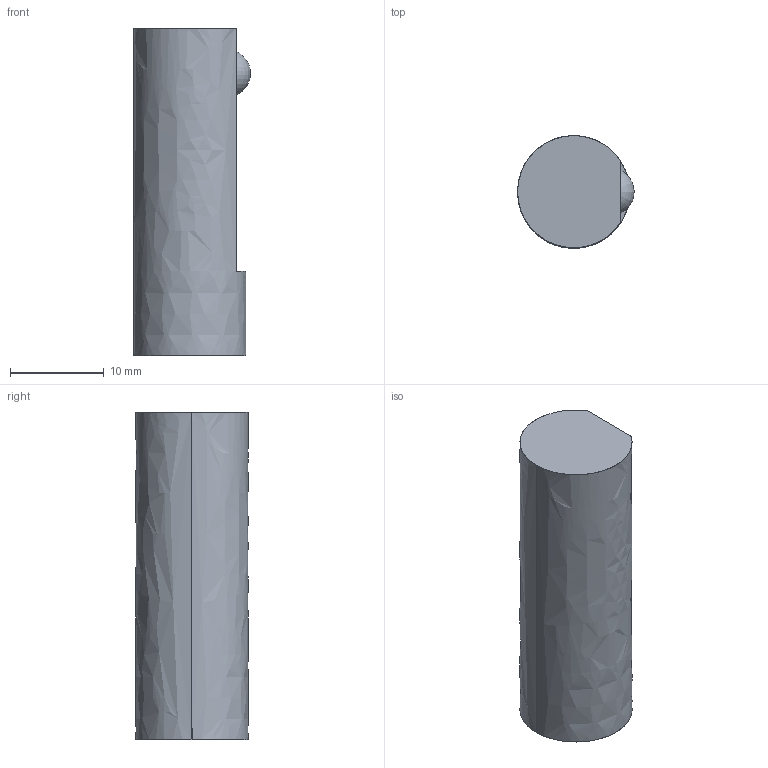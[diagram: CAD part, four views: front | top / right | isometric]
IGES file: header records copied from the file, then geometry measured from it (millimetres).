
Start section: SolidWorks IGES file using analytic representation for surfaces
Global section: file name: X:\11_SW2020-Inv2020\00_全2021-11新製品まで\w\WP1N-12\wp1n-12.IGS; native system: SolidWorks 2020; preprocessor: SolidWorks 2020; author: ImaoCorp; date: 211026.153922; units: millimetre
Bounding box: 12.49 x 12 x 35 mm (x, y, z)
Surface area: 1542.5 mm2 (no closed solid volume)
Topology: 0 solids, 0 shells, 7 faces, 154 edges, 154 vertices
Faces by surface type: bspline 4, revolution 3
